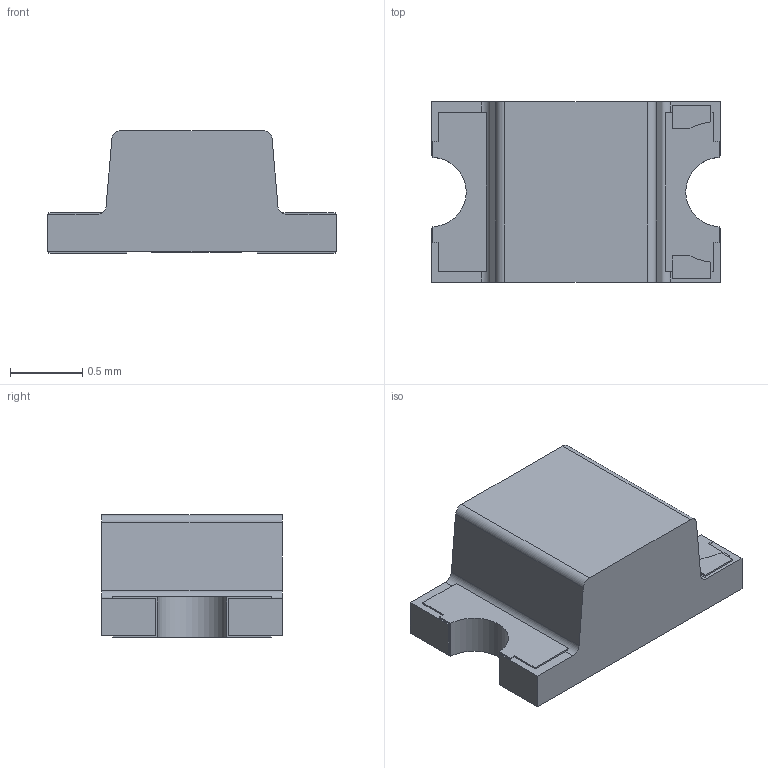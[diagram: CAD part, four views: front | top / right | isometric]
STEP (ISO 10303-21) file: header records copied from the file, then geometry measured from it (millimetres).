
FILE_DESCRIPTION(/* description */ ('STEP AP242 Edition 2','CAx-IF Rec.Pracs.---Representation and Presentation of Product Manufacturing Information (PMI)---4.0---2014-10-13','CAx-IF Rec.Pracs.---3D Tessellated Geometry---0.4---2014-09-14','2;1','CAx-IF Rec.Pracs.---User Defined Attributes---1.5---2016-08-15'),/* implementation_level */ '2;1');
FILE_NAME(/* name */ 'Assembly 1 - LED0805-FD-GREEN~LED0805-FD-GREEN~nxQB',/* time_stamp */ '2026-04-02T09:55:15Z',/* author */ (''),/* organization */ (''),/* preprocessor_version */ 'ST-DEVELOPER v20',/* originating_system */ 'ONSHAPE BY PTC INC, 1.212',/* authorisation */ ' ');
FILE_SCHEMA (('AP242_MANAGED_MODEL_BASED_3D_ENGINEERING_MIM_LF { 1 0 10303 442 3 1 4 }'));
Length unit declared in the file: metre
Products named in the file (1): LED0805-FD-GREEN~LED0805-FD-GREEN~nxQB
Bounding box: 2 x 1.25 x 0.85 mm (x, y, z)
Volume: 1.5 mm3; surface area: 9.1 mm2
Topology: 1 solids, 1 shells, 300 faces, 838 edges, 560 vertices
Faces by surface type: plane 185, bspline 95, cylinder 20
Entity records: 11990 total; most frequent: CARTESIAN_POINT 2903, ORIENTED_EDGE 1676, DIRECTION 1135, EDGE_CURVE 838, LINE 599, VECTOR 599, VERTEX_POINT 560, EDGE_LOOP 320
